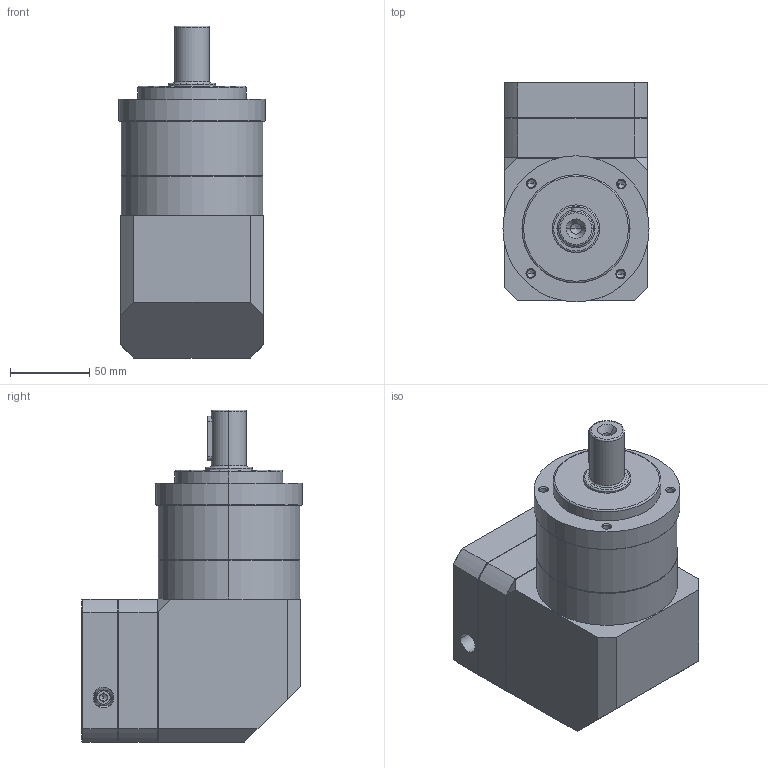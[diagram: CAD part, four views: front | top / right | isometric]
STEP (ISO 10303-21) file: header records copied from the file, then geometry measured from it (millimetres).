
FILE_DESCRIPTION (( 'STEP AP214' ), '1' );
FILE_NAME ('WPBL90-L1-19×40-70-90M6 三维零件图.STEP', '2021-08-11T00:17:03', ( 'XJJ' ), ( '' ), 'SwSTEP 2.0', 'SolidWorks 2016', '' );
FILE_SCHEMA (( 'AUTOMOTIVE_DESIGN' ));
Length unit declared in the file: millimetre
Products named in the file (3): WPBL90-L1-19×40-70-90M6 三维外形图; WPBL90-L1-19×40-70-90M6 三维零件图; hexagon socket head cap screws gb_GB_FASTENER_SCREWS_HSHCS M6X20-N
Assembly tree (2 placements, depth 2):
  WPBL90-L1-19×40-70-90M6 三维零件图
    WPBL90-L1-19×40-70-90M6 三维外形图
    hexagon socket head cap screws gb_GB_FASTENER_SCREWS_HSHCS M6X20-N
Bounding box: 92 x 138.5 x 209 mm (x, y, z)
Volume: 1465814.3 mm3; surface area: 103865.2 mm2
Topology: 2 solids, 2 shells, 217 faces, 503 edges, 293 vertices
Faces by surface type: plane 78, cylinder 69, cone 57, torus 13
Entity records: 6744 total; most frequent: CARTESIAN_POINT 1414, DIRECTION 1103, ORIENTED_EDGE 966, EDGE_CURVE 483, AXIS2_PLACEMENT_3D 430, VERTEX_POINT 293, EDGE_LOOP 248, VECTOR 243
